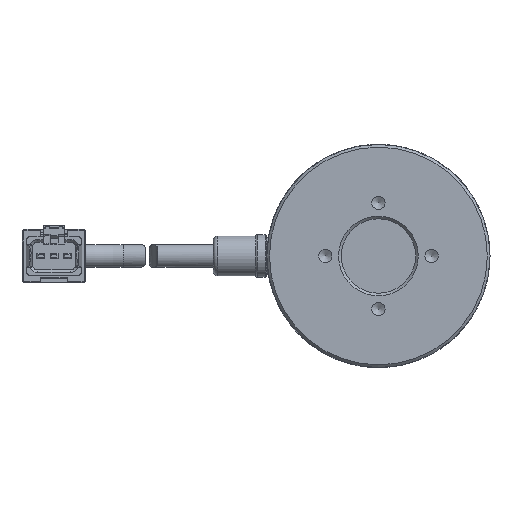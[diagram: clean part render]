
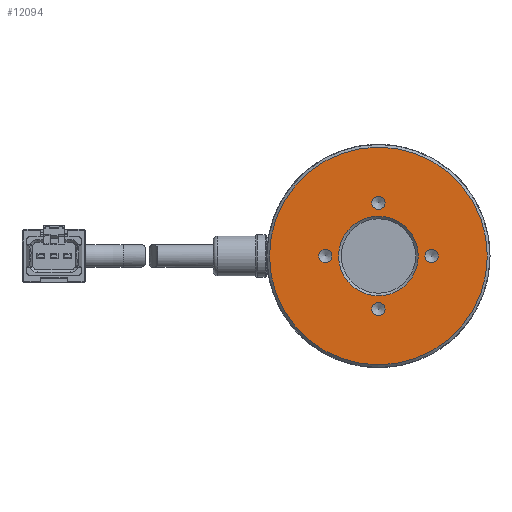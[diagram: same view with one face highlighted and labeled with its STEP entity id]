
A CAD part, front view. The second image highlights one B-rep face of the part: STEP entity #12094.
In plain terms, the highlighted planar face has unit normal (0, -1, 0).
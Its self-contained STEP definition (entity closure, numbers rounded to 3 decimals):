
#100 = EDGE_CURVE ( 'NONE', #18157, #18157, #20630, .T. ) ;
#734 = AXIS2_PLACEMENT_3D ( 'NONE', #27530, #11693, #16019 ) ;
#1679 = EDGE_CURVE ( 'NONE', #23102, #23102, #10992, .T. ) ;
#3521 = EDGE_CURVE ( 'NONE', #17127, #17127, #12407, .T. ) ;
#3661 = EDGE_CURVE ( 'NONE', #10773, #10773, #7823, .T. ) ;
#4625 = DIRECTION ( 'NONE',  ( 0., 0., -1. ) ) ;
#5862 = EDGE_LOOP ( 'NONE', ( #24121 ) ) ;
#6138 = ORIENTED_EDGE ( 'NONE', *, *, #23992, .T. ) ;
#6232 = CIRCLE ( 'NONE', #28655, 7.5 ) ;
#7084 = DIRECTION ( 'NONE',  ( 0., 1., 0. ) ) ;
#7221 = FACE_OUTER_BOUND ( 'NONE', #15428, .T. ) ;
#7229 = CARTESIAN_POINT ( 'NONE',  ( 0., 0., 10. ) ) ;
#7823 = CIRCLE ( 'NONE', #18753, 20.5 ) ;
#7922 = FACE_BOUND ( 'NONE', #25640, .T. ) ;
#7937 = ORIENTED_EDGE ( 'NONE', *, *, #100, .T. ) ;
#8289 = FACE_BOUND ( 'NONE', #5862, .T. ) ;
#8849 = CARTESIAN_POINT ( 'NONE',  ( 0., 0., 20.5 ) ) ;
#8914 = EDGE_LOOP ( 'NONE', ( #15639 ) ) ;
#9600 = EDGE_LOOP ( 'NONE', ( #26882 ) ) ;
#10014 = DIRECTION ( 'NONE',  ( 0., 1., 0. ) ) ;
#10044 = VERTEX_POINT ( 'NONE', #17981 ) ;
#10611 = EDGE_CURVE ( 'NONE', #28377, #28377, #6232, .T. ) ;
#10773 = VERTEX_POINT ( 'NONE', #8849 ) ;
#10927 = AXIS2_PLACEMENT_3D ( 'NONE', #7229, #22927, #27080 ) ;
#10992 = CIRCLE ( 'NONE', #734, 1.25 ) ;
#11264 = DIRECTION ( 'NONE',  ( 0., 0., -1. ) ) ;
#11411 = ORIENTED_EDGE ( 'NONE', *, *, #3661, .F. ) ;
#11693 = DIRECTION ( 'NONE',  ( 0., 1., 0. ) ) ;
#11879 = AXIS2_PLACEMENT_3D ( 'NONE', #26247, #28233, #14946 ) ;
#12094 = ADVANCED_FACE ( 'NONE', ( #7922, #25140, #21982, #15298, #7221, #8289 ), #28619, .T. ) ;
#12185 = DIRECTION ( 'NONE',  ( 0., 0., -1. ) ) ;
#12407 = CIRCLE ( 'NONE', #19854, 1.25 ) ;
#13161 = CARTESIAN_POINT ( 'NONE',  ( 0., 0., -11.25 ) ) ;
#13656 = CARTESIAN_POINT ( 'NONE',  ( 0., 0., -7.5 ) ) ;
#14850 = DIRECTION ( 'NONE',  ( 0., 0., 1. ) ) ;
#14946 = DIRECTION ( 'NONE',  ( 0., 0., -1. ) ) ;
#15298 = FACE_BOUND ( 'NONE', #18923, .T. ) ;
#15428 = EDGE_LOOP ( 'NONE', ( #11411 ) ) ;
#15436 = CARTESIAN_POINT ( 'NONE',  ( 0., 0., 8.75 ) ) ;
#15639 = ORIENTED_EDGE ( 'NONE', *, *, #1679, .T. ) ;
#15707 = CARTESIAN_POINT ( 'NONE',  ( -10., 0., 0. ) ) ;
#16019 = DIRECTION ( 'NONE',  ( 0., 0., -1. ) ) ;
#16486 = DIRECTION ( 'NONE',  ( 0., 1., 0. ) ) ;
#17127 = VERTEX_POINT ( 'NONE', #17407 ) ;
#17251 = CIRCLE ( 'NONE', #21360, 1.25 ) ;
#17407 = CARTESIAN_POINT ( 'NONE',  ( 10., 0., -1.25 ) ) ;
#17981 = CARTESIAN_POINT ( 'NONE',  ( -10., 0., -1.25 ) ) ;
#18157 = VERTEX_POINT ( 'NONE', #15436 ) ;
#18753 = AXIS2_PLACEMENT_3D ( 'NONE', #19446, #21527, #14850 ) ;
#18923 = EDGE_LOOP ( 'NONE', ( #6138 ) ) ;
#18972 = CARTESIAN_POINT ( 'NONE',  ( 10., 0., 0. ) ) ;
#19446 = CARTESIAN_POINT ( 'NONE',  ( 0., 0., 0. ) ) ;
#19854 = AXIS2_PLACEMENT_3D ( 'NONE', #18972, #10014, #12185 ) ;
#20630 = CIRCLE ( 'NONE', #10927, 1.25 ) ;
#21360 = AXIS2_PLACEMENT_3D ( 'NONE', #15707, #16486, #11264 ) ;
#21527 = DIRECTION ( 'NONE',  ( 0., 1., 0. ) ) ;
#21982 = FACE_BOUND ( 'NONE', #8914, .T. ) ;
#22927 = DIRECTION ( 'NONE',  ( 0., 1., 0. ) ) ;
#23102 = VERTEX_POINT ( 'NONE', #13161 ) ;
#23992 = EDGE_CURVE ( 'NONE', #10044, #10044, #17251, .T. ) ;
#24121 = ORIENTED_EDGE ( 'NONE', *, *, #10611, .T. ) ;
#25140 = FACE_BOUND ( 'NONE', #9600, .T. ) ;
#25640 = EDGE_LOOP ( 'NONE', ( #7937 ) ) ;
#26247 = CARTESIAN_POINT ( 'NONE',  ( 0., 0., 0. ) ) ;
#26882 = ORIENTED_EDGE ( 'NONE', *, *, #3521, .T. ) ;
#27080 = DIRECTION ( 'NONE',  ( 0., 0., -1. ) ) ;
#27418 = CARTESIAN_POINT ( 'NONE',  ( 0., 0., 0. ) ) ;
#27530 = CARTESIAN_POINT ( 'NONE',  ( 0., 0., -10. ) ) ;
#28233 = DIRECTION ( 'NONE',  ( 0., -1., 0. ) ) ;
#28377 = VERTEX_POINT ( 'NONE', #13656 ) ;
#28619 = PLANE ( 'NONE',  #11879 ) ;
#28655 = AXIS2_PLACEMENT_3D ( 'NONE', #27418, #7084, #4625 ) ;
